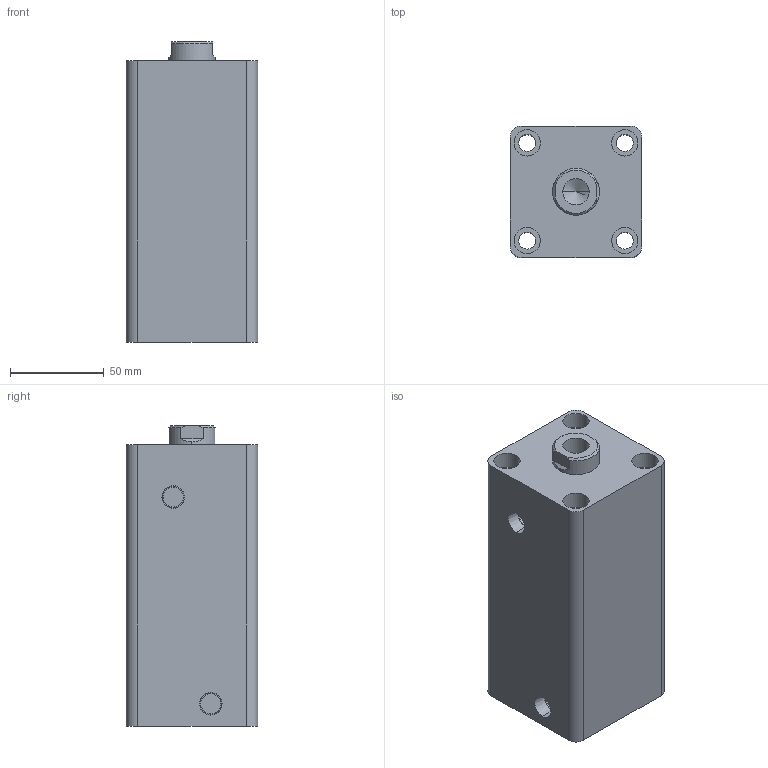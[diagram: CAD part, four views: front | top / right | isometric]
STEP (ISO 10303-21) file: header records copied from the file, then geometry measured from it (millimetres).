
FILE_DESCRIPTION (( 'STEP AP203' ), '1' );
FILE_NAME ('HTB-SD40-95N.STEP', '2019-10-07T06:58:05', ( '微软用户' ), ( '微软中国' ), 'SwSTEP 2.0', 'SolidWorks 2012', '' );
FILE_SCHEMA (( 'CONFIG_CONTROL_DESIGN' ));
Length unit declared in the file: millimetre
Products named in the file (3): HTB-SD40-95掛极; HTB-SD40-95N活塞杆; HTB-SD40-95N
Assembly tree (2 placements, depth 2):
  HTB-SD40-95N
    HTB-SD40-95掛极
    HTB-SD40-95N活塞杆
Bounding box: 70 x 70 x 160 mm (x, y, z)
Volume: 612401.3 mm3; surface area: 102245.3 mm2
Topology: 2 solids, 2 shells, 81 faces, 180 edges, 117 vertices
Faces by surface type: cylinder 42, plane 27, cone 8, torus 4
Entity records: 2603 total; most frequent: DIRECTION 444, CARTESIAN_POINT 409, ORIENTED_EDGE 356, AXIS2_PLACEMENT_3D 188, EDGE_CURVE 178, VERTEX_POINT 117, EDGE_LOOP 105, CIRCLE 102
